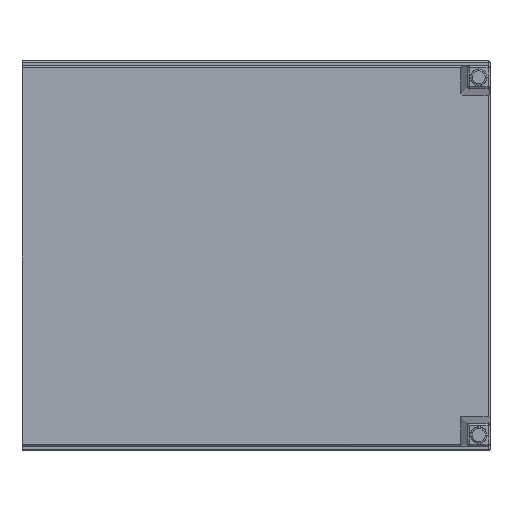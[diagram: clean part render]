
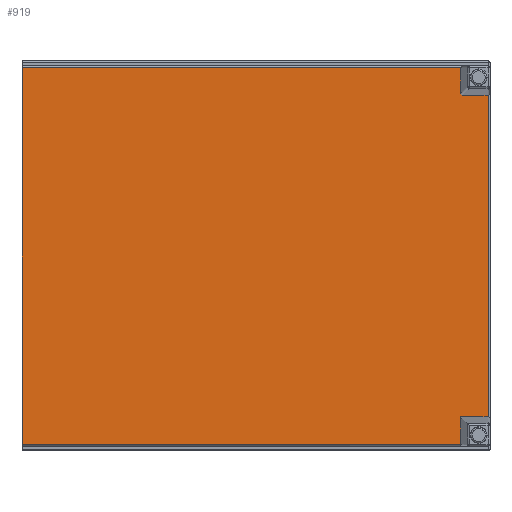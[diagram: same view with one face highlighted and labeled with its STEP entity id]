
A CAD part, front view. The second image highlights one B-rep face of the part: STEP entity #919.
In plain terms, the highlighted planar face has unit normal (0, -1, 0).
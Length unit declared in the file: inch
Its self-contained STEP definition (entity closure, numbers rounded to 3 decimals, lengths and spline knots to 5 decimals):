
#38=PLANE('',#1047);
#51=ELLIPSE('',#1010,0.10006,0.1);
#76=LINE('',#1465,#147);
#79=LINE('',#1478,#150);
#93=LINE('',#1561,#164);
#112=LINE('',#1597,#183);
#114=LINE('',#1600,#185);
#115=LINE('',#1602,#186);
#118=LINE('',#1610,#189);
#119=LINE('',#1612,#190);
#147=VECTOR('',#1165,0.3937);
#150=VECTOR('',#1176,0.3937);
#164=VECTOR('',#1270,0.3937);
#183=VECTOR('',#1313,0.3937);
#185=VECTOR('',#1317,0.3937);
#186=VECTOR('',#1320,0.3937);
#189=VECTOR('',#1331,0.3937);
#190=VECTOR('',#1334,0.3937);
#275=FACE_OUTER_BOUND('',#339,.T.);
#339=EDGE_LOOP('',(#798,#799,#800,#801,#802,#803,#804,#805,#806));
#421=VERTEX_POINT('',#1463);
#422=VERTEX_POINT('',#1464);
#427=VERTEX_POINT('',#1475);
#428=VERTEX_POINT('',#1477);
#443=VERTEX_POINT('',#1518);
#444=VERTEX_POINT('',#1519);
#454=VERTEX_POINT('',#1551);
#457=VERTEX_POINT('',#1559);
#462=VERTEX_POINT('',#1596);
#510=EDGE_CURVE('',#421,#422,#76,.T.);
#516=EDGE_CURVE('',#427,#428,#79,.T.);
#535=EDGE_CURVE('',#443,#444,#51,.F.);
#556=EDGE_CURVE('',#457,#454,#93,.T.);
#577=EDGE_CURVE('',#462,#454,#112,.T.);
#579=EDGE_CURVE('',#457,#444,#114,.T.);
#580=EDGE_CURVE('',#443,#428,#115,.T.);
#583=EDGE_CURVE('',#421,#462,#118,.T.);
#584=EDGE_CURVE('',#422,#427,#119,.T.);
#798=ORIENTED_EDGE('',*,*,#510,.F.);
#799=ORIENTED_EDGE('',*,*,#583,.T.);
#800=ORIENTED_EDGE('',*,*,#577,.T.);
#801=ORIENTED_EDGE('',*,*,#556,.F.);
#802=ORIENTED_EDGE('',*,*,#579,.T.);
#803=ORIENTED_EDGE('',*,*,#535,.F.);
#804=ORIENTED_EDGE('',*,*,#580,.T.);
#805=ORIENTED_EDGE('',*,*,#516,.F.);
#806=ORIENTED_EDGE('',*,*,#584,.F.);
#919=ADVANCED_FACE('',(#275),#38,.T.);
#1010=AXIS2_PLACEMENT_3D('',#1520,#1223,#1224);
#1047=AXIS2_PLACEMENT_3D('',#1611,#1332,#1333);
#1165=DIRECTION('',(-1.,0.,0.));
#1176=DIRECTION('',(1.,0.,0.));
#1223=DIRECTION('center_axis',(0.,1.,0.));
#1224=DIRECTION('ref_axis',(-0.707,0.,-0.707));
#1270=DIRECTION('',(0.,0.,-1.));
#1313=DIRECTION('',(1.,0.,0.));
#1317=DIRECTION('',(-1.,0.,0.));
#1320=DIRECTION('',(0.,0.,1.));
#1331=DIRECTION('',(0.,0.,1.));
#1332=DIRECTION('center_axis',(0.,-1.,0.));
#1333=DIRECTION('ref_axis',(0.,0.,1.));
#1334=DIRECTION('',(0.,0.,1.));
#1463=CARTESIAN_POINT('',(44.65,14.125,-33.52486));
#1464=CARTESIAN_POINT('',(22.15,14.125,-33.52486));
#1465=CARTESIAN_POINT('',(46.15,14.125,-33.52486));
#1475=CARTESIAN_POINT('',(22.15,14.125,-14.22486));
#1477=CARTESIAN_POINT('',(44.65,14.125,-14.22486));
#1478=CARTESIAN_POINT('',(46.15,14.125,-14.22486));
#1518=CARTESIAN_POINT('',(44.65,14.125,-15.52489));
#1519=CARTESIAN_POINT('',(44.74997,14.125,-15.62486));
#1520=CARTESIAN_POINT('Origin',(44.75003,14.125,-15.52483));
#1551=CARTESIAN_POINT('',(46.05,14.125,-32.12486));
#1559=CARTESIAN_POINT('',(46.05,14.125,-15.62486));
#1561=CARTESIAN_POINT('',(46.05,14.125,-28.74986));
#1596=CARTESIAN_POINT('',(44.65,14.125,-32.12486));
#1597=CARTESIAN_POINT('',(46.15,14.125,-32.12486));
#1600=CARTESIAN_POINT('',(46.15,14.125,-15.62486));
#1602=CARTESIAN_POINT('',(44.65,14.125,-24.62486));
#1610=CARTESIAN_POINT('',(44.65,14.125,-33.62486));
#1611=CARTESIAN_POINT('Origin',(46.15,14.125,-33.62486));
#1612=CARTESIAN_POINT('',(22.15,14.125,-14.12486));
